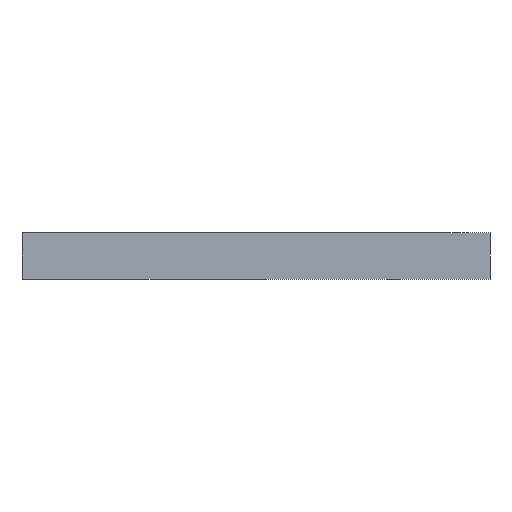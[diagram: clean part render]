
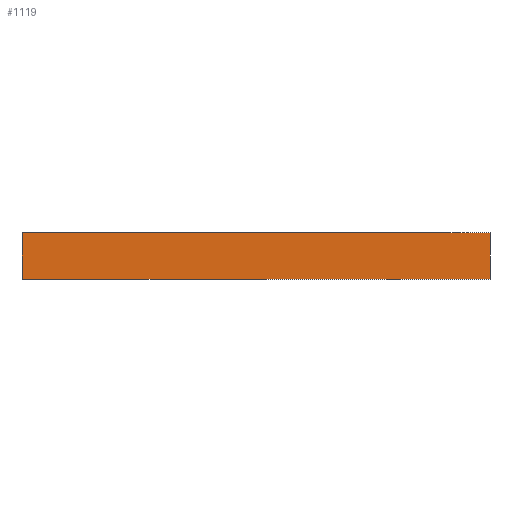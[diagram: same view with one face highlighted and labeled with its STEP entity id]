
A CAD part, left-side view. The second image highlights one B-rep face of the part: STEP entity #1119.
In plain terms, the highlighted planar face has unit normal (-1, 0, 0).
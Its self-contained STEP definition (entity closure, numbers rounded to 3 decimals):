
#15 = PLANE ( 'NONE',  #311 ) ;
#64 = EDGE_CURVE ( 'NONE', #604, #1027, #1617, .T. ) ;
#99 = DIRECTION ( 'NONE',  ( 0., -1., 0. ) ) ;
#164 = CARTESIAN_POINT ( 'NONE',  ( -215., -52.5, -262.728 ) ) ;
#196 = ORIENTED_EDGE ( 'NONE', *, *, #701, .T. ) ;
#303 = DIRECTION ( 'NONE',  ( -1., 0., 0. ) ) ;
#311 = AXIS2_PLACEMENT_3D ( 'NONE', #1241, #303, #1084 ) ;
#331 = FACE_OUTER_BOUND ( 'NONE', #1429, .T. ) ;
#421 = CARTESIAN_POINT ( 'NONE',  ( -215., 202.5, -288.128 ) ) ;
#508 = CARTESIAN_POINT ( 'NONE',  ( -215., -52.5, -288.128 ) ) ;
#535 = DIRECTION ( 'NONE',  ( 0., -1., 0. ) ) ;
#604 = VERTEX_POINT ( 'NONE', #773 ) ;
#695 = LINE ( 'NONE', #1749, #1861 ) ;
#701 = EDGE_CURVE ( 'NONE', #604, #1475, #1878, .T. ) ;
#773 = CARTESIAN_POINT ( 'NONE',  ( -215., 202.5, -288.128 ) ) ;
#841 = CARTESIAN_POINT ( 'NONE',  ( -215., -52.5, -288.128 ) ) ;
#861 = DIRECTION ( 'NONE',  ( 0., 0., 1. ) ) ;
#967 = VECTOR ( 'NONE', #1959, 1000. ) ;
#1027 = VERTEX_POINT ( 'NONE', #1830 ) ;
#1055 = VECTOR ( 'NONE', #861, 1000. ) ;
#1083 = ORIENTED_EDGE ( 'NONE', *, *, #64, .F. ) ;
#1084 = DIRECTION ( 'NONE',  ( 0., 0., 1. ) ) ;
#1119 = ADVANCED_FACE ( 'NONE', ( #331 ), #15, .T. ) ;
#1241 = CARTESIAN_POINT ( 'NONE',  ( -215., -52.5, -288.128 ) ) ;
#1365 = ORIENTED_EDGE ( 'NONE', *, *, #1602, .T. ) ;
#1429 = EDGE_LOOP ( 'NONE', ( #1972, #1083, #196, #1365 ) ) ;
#1465 = LINE ( 'NONE', #841, #1055 ) ;
#1475 = VERTEX_POINT ( 'NONE', #508 ) ;
#1484 = VECTOR ( 'NONE', #99, 1000. ) ;
#1587 = EDGE_CURVE ( 'NONE', #1027, #1745, #695, .T. ) ;
#1602 = EDGE_CURVE ( 'NONE', #1475, #1745, #1465, .T. ) ;
#1617 = LINE ( 'NONE', #421, #967 ) ;
#1745 = VERTEX_POINT ( 'NONE', #164 ) ;
#1749 = CARTESIAN_POINT ( 'NONE',  ( -215., -52.5, -262.728 ) ) ;
#1830 = CARTESIAN_POINT ( 'NONE',  ( -215., 202.5, -262.728 ) ) ;
#1861 = VECTOR ( 'NONE', #535, 1000. ) ;
#1878 = LINE ( 'NONE', #1902, #1484 ) ;
#1902 = CARTESIAN_POINT ( 'NONE',  ( -215., -52.5, -288.128 ) ) ;
#1959 = DIRECTION ( 'NONE',  ( 0., 0., 1. ) ) ;
#1972 = ORIENTED_EDGE ( 'NONE', *, *, #1587, .F. ) ;
